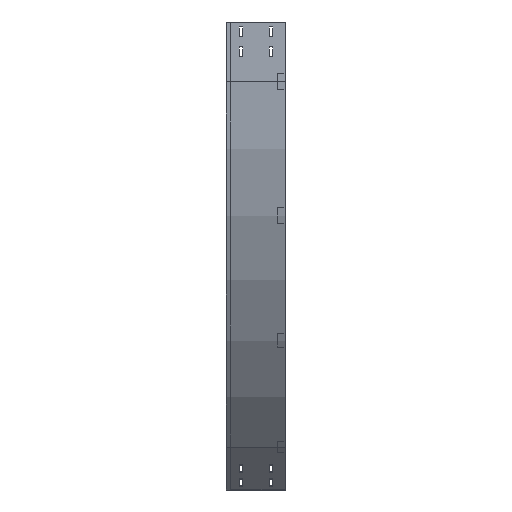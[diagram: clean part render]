
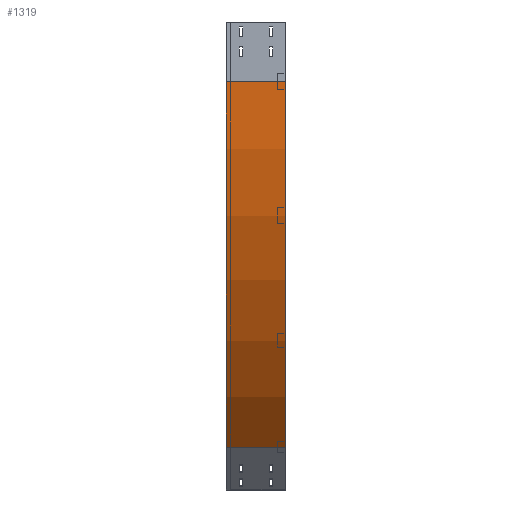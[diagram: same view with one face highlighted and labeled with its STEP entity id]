
A CAD part, left-side view. The second image highlights one B-rep face of the part: STEP entity #1319.
In plain terms, the highlighted cylindrical face has radius 1300 mm (diameter 2600 mm), a partial arc.
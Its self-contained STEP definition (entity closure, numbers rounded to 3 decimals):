
#117 = CARTESIAN_POINT ( 'NONE',  ( 0., 150., -150. ) ) ;
#136 = EDGE_CURVE ( 'NONE', #1911, #1668, #848, .T. ) ;
#198 = CARTESIAN_POINT ( 'NONE',  ( 380.761, 150., -1069.239 ) ) ;
#340 = EDGE_CURVE ( 'NONE', #1668, #843, #3637, .T. ) ;
#661 = DIRECTION ( 'NONE',  ( 0., -1., 0. ) ) ;
#723 = CARTESIAN_POINT ( 'NONE',  ( 380.761, 0., -1069.239 ) ) ;
#794 = CARTESIAN_POINT ( 'NONE',  ( 380.761, 0., -1069.239 ) ) ;
#843 = VERTEX_POINT ( 'NONE', #794 ) ;
#848 = CIRCLE ( 'NONE', #2630, 1300. ) ;
#888 = DIRECTION ( 'NONE',  ( -1., 0., 0. ) ) ;
#1025 = DIRECTION ( 'NONE',  ( 0., -1., 0. ) ) ;
#1192 = CARTESIAN_POINT ( 'NONE',  ( 0., 0., -150. ) ) ;
#1306 = DIRECTION ( 'NONE',  ( 0., -1., 0. ) ) ;
#1319 = ADVANCED_FACE ( 'NONE', ( #1974 ), #2815, .T. ) ;
#1362 = AXIS2_PLACEMENT_3D ( 'NONE', #3322, #1306, #3362 ) ;
#1468 = DIRECTION ( 'NONE',  ( 0., -1., 0. ) ) ;
#1553 = EDGE_LOOP ( 'NONE', ( #3134, #2619, #3803, #2591 ) ) ;
#1668 = VERTEX_POINT ( 'NONE', #198 ) ;
#1911 = VERTEX_POINT ( 'NONE', #117 ) ;
#1940 = DIRECTION ( 'NONE',  ( 0., 0., -1. ) ) ;
#1974 = FACE_OUTER_BOUND ( 'NONE', #1553, .T. ) ;
#2033 = VECTOR ( 'NONE', #1468, 1000. ) ;
#2040 = AXIS2_PLACEMENT_3D ( 'NONE', #3433, #3509, #1940 ) ;
#2045 = CIRCLE ( 'NONE', #1362, 1300. ) ;
#2119 = CARTESIAN_POINT ( 'NONE',  ( 1300., 150., -150. ) ) ;
#2246 = EDGE_CURVE ( 'NONE', #1911, #2262, #3565, .T. ) ;
#2262 = VERTEX_POINT ( 'NONE', #2977 ) ;
#2591 = ORIENTED_EDGE ( 'NONE', *, *, #340, .T. ) ;
#2619 = ORIENTED_EDGE ( 'NONE', *, *, #2246, .F. ) ;
#2630 = AXIS2_PLACEMENT_3D ( 'NONE', #2119, #661, #888 ) ;
#2815 = CYLINDRICAL_SURFACE ( 'NONE', #2040, 1300. ) ;
#2977 = CARTESIAN_POINT ( 'NONE',  ( 0., 0., -150. ) ) ;
#3085 = VECTOR ( 'NONE', #1025, 1000. ) ;
#3134 = ORIENTED_EDGE ( 'NONE', *, *, #3537, .F. ) ;
#3322 = CARTESIAN_POINT ( 'NONE',  ( 1300., 0., -150. ) ) ;
#3362 = DIRECTION ( 'NONE',  ( -1., 0., 0. ) ) ;
#3433 = CARTESIAN_POINT ( 'NONE',  ( 1300., 0., -150. ) ) ;
#3509 = DIRECTION ( 'NONE',  ( 0., -1., 0. ) ) ;
#3537 = EDGE_CURVE ( 'NONE', #2262, #843, #2045, .T. ) ;
#3565 = LINE ( 'NONE', #1192, #2033 ) ;
#3637 = LINE ( 'NONE', #723, #3085 ) ;
#3803 = ORIENTED_EDGE ( 'NONE', *, *, #136, .T. ) ;
